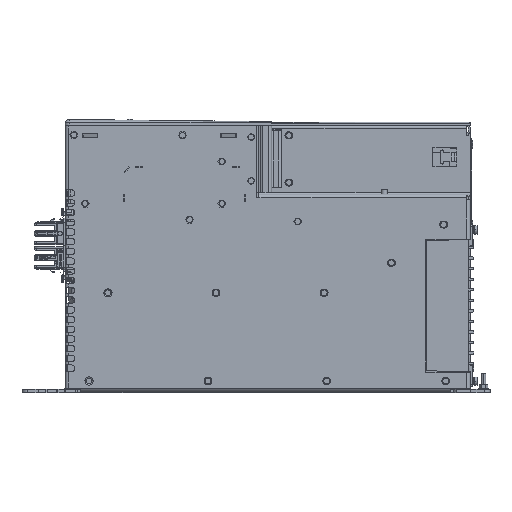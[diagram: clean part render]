
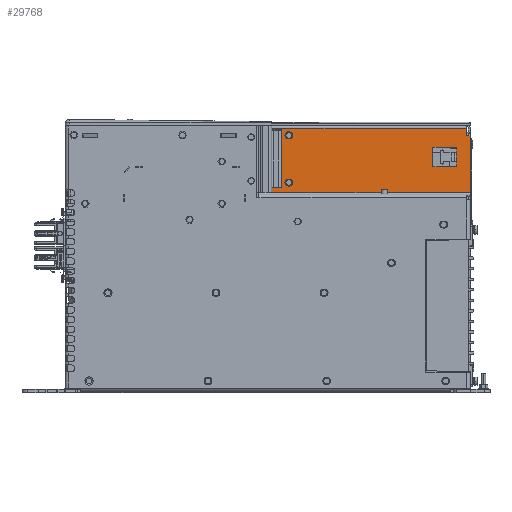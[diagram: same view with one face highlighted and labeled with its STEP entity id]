
A CAD part, left-side view. The second image highlights one B-rep face of the part: STEP entity #29768.
In plain terms, the highlighted planar face has unit normal (-1, 0, 0).
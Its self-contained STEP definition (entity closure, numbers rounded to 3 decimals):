
#9279=DIRECTION('',(0.,1.,0.));
#9280=VECTOR('',#9279,0.75);
#9281=CARTESIAN_POINT('',(-13.35,-20.045,197.536));
#9282=LINE('',#9281,#9280);
#9283=CARTESIAN_POINT('',(-13.35,-19.295,194.285));
#9284=DIRECTION('',(1.,0.,0.));
#9285=DIRECTION('',(0.,0.,-1.));
#9286=AXIS2_PLACEMENT_3D('',#9283,#9284,#9285);
#9288=DIRECTION('',(0.,-1.,0.));
#9289=VECTOR('',#9288,0.75);
#9290=CARTESIAN_POINT('',(-13.35,-19.295,191.034));
#9291=LINE('',#9290,#9289);
#9292=CARTESIAN_POINT('',(-13.35,-20.045,194.285));
#9293=DIRECTION('',(1.,0.,0.));
#9294=DIRECTION('',(0.,0.,1.));
#9295=AXIS2_PLACEMENT_3D('',#9292,#9293,#9294);
#9297=DIRECTION('',(0.,1.,0.));
#9298=VECTOR('',#9297,0.75);
#9299=CARTESIAN_POINT('',(-13.35,-20.045,241.136));
#9300=LINE('',#9299,#9298);
#9301=CARTESIAN_POINT('',(-13.35,-19.295,237.885));
#9302=DIRECTION('',(1.,0.,0.));
#9303=DIRECTION('',(0.,0.,-1.));
#9304=AXIS2_PLACEMENT_3D('',#9301,#9302,#9303);
#9306=DIRECTION('',(0.,-1.,0.));
#9307=VECTOR('',#9306,0.75);
#9308=CARTESIAN_POINT('',(-13.35,-19.295,234.634));
#9309=LINE('',#9308,#9307);
#9310=CARTESIAN_POINT('',(-13.35,-20.045,237.885));
#9311=DIRECTION('',(1.,0.,0.));
#9312=DIRECTION('',(0.,0.,1.));
#9313=AXIS2_PLACEMENT_3D('',#9310,#9311,#9312);
#9315=DIRECTION('',(0.,0.,-1.));
#9316=VECTOR('',#9315,2.5);
#9317=CARTESIAN_POINT('',(-13.35,-174.784,224.395));
#9318=LINE('',#9317,#9316);
#9319=DIRECTION('',(0.,0.,-1.));
#9320=VECTOR('',#9319,2.5);
#9321=CARTESIAN_POINT('',(-13.35,-174.784,226.895));
#9322=LINE('',#9321,#9320);
#9323=DIRECTION('',(0.,-1.,0.));
#9324=VECTOR('',#9323,21.87);
#9325=CARTESIAN_POINT('',(-13.35,-152.914,226.895));
#9326=LINE('',#9325,#9324);
#9327=DIRECTION('',(0.,0.,1.));
#9328=VECTOR('',#9327,18.);
#9329=CARTESIAN_POINT('',(-13.35,-152.914,208.895));
#9330=LINE('',#9329,#9328);
#9331=DIRECTION('',(0.,1.,0.));
#9332=VECTOR('',#9331,21.87);
#9333=CARTESIAN_POINT('',(-13.35,-174.784,208.895));
#9334=LINE('',#9333,#9332);
#9335=DIRECTION('',(0.,0.,-1.));
#9336=VECTOR('',#9335,2.5);
#9337=CARTESIAN_POINT('',(-13.35,-174.784,211.395));
#9338=LINE('',#9337,#9336);
#9339=DIRECTION('',(0.,0.,-1.));
#9340=VECTOR('',#9339,2.5);
#9341=CARTESIAN_POINT('',(-13.35,-174.784,213.895));
#9342=LINE('',#9341,#9340);
#9343=DIRECTION('',(0.,1.,0.));
#9344=VECTOR('',#9343,0.3);
#9345=CARTESIAN_POINT('',(-13.35,-174.784,213.895));
#9346=LINE('',#9345,#9344);
#9347=DIRECTION('',(0.,-1.,0.));
#9348=VECTOR('',#9347,0.3);
#9349=CARTESIAN_POINT('',(-13.35,-174.484,221.895));
#9350=LINE('',#9349,#9348);
#9351=CARTESIAN_POINT('',(-13.35,6.654,188.255));
#9352=DIRECTION('',(-1.,0.,0.));
#9353=DIRECTION('',(0.,0.,1.));
#9354=AXIS2_PLACEMENT_3D('',#9351,#9352,#9353);
#9356=DIRECTION('',(0.,1.,0.));
#9357=VECTOR('',#9356,10.5);
#9358=CARTESIAN_POINT('',(-13.35,-3.846,189.755));
#9359=LINE('',#9358,#9357);
#9360=DIRECTION('',(0.,-1.,0.));
#9361=VECTOR('',#9360,9.);
#9362=CARTESIAN_POINT('',(-13.35,-3.846,189.755));
#9363=LINE('',#9362,#9361);
#9364=DIRECTION('',(0.,0.,1.));
#9365=VECTOR('',#9364,53.14);
#9366=CARTESIAN_POINT('',(-13.35,-12.846,189.755));
#9367=LINE('',#9366,#9365);
#9368=DIRECTION('',(0.,1.,0.));
#9369=VECTOR('',#9368,9.);
#9370=CARTESIAN_POINT('',(-13.35,-12.846,242.895));
#9371=LINE('',#9370,#9369);
#9372=DIRECTION('',(0.,0.,1.));
#9373=VECTOR('',#9372,1.8);
#9374=CARTESIAN_POINT('',(-13.35,-3.846,242.895));
#9375=LINE('',#9374,#9373);
#9376=DIRECTION('',(0.,0.,-1.));
#9377=VECTOR('',#9376,7.021);
#9378=CARTESIAN_POINT('',(-13.35,-183.984,244.695));
#9379=LINE('',#9378,#9377);
#9380=DIRECTION('',(0.,1.,0.));
#9381=VECTOR('',#9380,3.4);
#9382=CARTESIAN_POINT('',(-13.35,-187.384,237.675));
#9383=LINE('',#9382,#9381);
#9384=DIRECTION('',(0.,-1.,0.));
#9385=VECTOR('',#9384,195.539);
#9386=CARTESIAN_POINT('',(-13.35,8.154,185.035));
#9387=LINE('',#9386,#9385);
#10017=DIRECTION('',(0.,-1.,0.));
#10018=VECTOR('',#10017,180.139);
#10019=CARTESIAN_POINT('',(-13.35,-3.846,244.695));
#10020=LINE('',#10019,#10018);
#10450=DIRECTION('',(0.,0.,1.));
#10451=VECTOR('',#10450,52.64);
#10452=CARTESIAN_POINT('',(-13.35,-187.384,185.035));
#10453=LINE('',#10452,#10451);
#10554=DIRECTION('',(0.,0.,-1.));
#10555=VECTOR('',#10554,3.22);
#10556=CARTESIAN_POINT('',(-13.35,8.154,188.255));
#10557=LINE('',#10556,#10555);
#19288=DIRECTION('',(0.,0.,-1.));
#19289=VECTOR('',#19288,8.);
#19290=CARTESIAN_POINT('',(-13.35,-174.484,221.895));
#19291=LINE('',#19290,#19289);
#19664=CARTESIAN_POINT('',(-13.35,-3.846,244.695));
#19666=VERTEX_POINT('',#19664);
#19847=CARTESIAN_POINT('',(-13.35,-3.846,242.895));
#19848=CARTESIAN_POINT('',(-13.35,-12.846,242.895));
#19849=VERTEX_POINT('',#19847);
#19850=VERTEX_POINT('',#19848);
#19851=CARTESIAN_POINT('',(-13.35,-12.846,189.755));
#19852=VERTEX_POINT('',#19851);
#19853=CARTESIAN_POINT('',(-13.35,-3.846,189.755));
#19854=VERTEX_POINT('',#19853);
#19873=CARTESIAN_POINT('',(-13.35,-187.384,185.035));
#19874=VERTEX_POINT('',#19873);
#19921=CARTESIAN_POINT('',(-13.35,8.154,185.035));
#19923=VERTEX_POINT('',#19921);
#21299=CARTESIAN_POINT('',(-13.35,-187.384,237.675));
#21300=CARTESIAN_POINT('',(-13.35,-183.984,237.675));
#21301=VERTEX_POINT('',#21299);
#21302=VERTEX_POINT('',#21300);
#21303=CARTESIAN_POINT('',(-13.35,-183.984,244.695));
#21304=VERTEX_POINT('',#21303);
#24591=CARTESIAN_POINT('',(-13.35,-19.295,
197.536));
#24592=CARTESIAN_POINT('',(-13.35,-20.045,197.536));
#24593=VERTEX_POINT('',#24591);
#24594=VERTEX_POINT('',#24592);
#24595=CARTESIAN_POINT('',(-13.35,-20.045,191.034));
#24596=VERTEX_POINT('',#24595);
#24601=CARTESIAN_POINT('',(-13.35,-19.295,191.034));
#24602=VERTEX_POINT('',#24601);
#24615=CARTESIAN_POINT('',(-13.35,-19.295,
241.136));
#24616=CARTESIAN_POINT('',(-13.35,-20.045,241.136));
#24617=VERTEX_POINT('',#24615);
#24618=VERTEX_POINT('',#24616);
#24619=CARTESIAN_POINT('',(-13.35,-20.045,234.634));
#24620=VERTEX_POINT('',#24619);
#24625=CARTESIAN_POINT('',(-13.35,-19.295,234.634));
#24626=VERTEX_POINT('',#24625);
#24735=CARTESIAN_POINT('',(-13.35,-152.914,208.895));
#24736=CARTESIAN_POINT('',(-13.35,-152.914,226.895));
#24737=VERTEX_POINT('',#24735);
#24738=VERTEX_POINT('',#24736);
#24739=CARTESIAN_POINT('',(-13.35,-174.784,226.895));
#24740=VERTEX_POINT('',#24739);
#24741=CARTESIAN_POINT('',(-13.35,-174.784,208.895));
#24742=VERTEX_POINT('',#24741);
#24767=CARTESIAN_POINT('',(-13.35,-174.784,224.395));
#24768=CARTESIAN_POINT('',(-13.35,-174.784,221.895));
#24769=VERTEX_POINT('',#24767);
#24770=VERTEX_POINT('',#24768);
#24771=CARTESIAN_POINT('',(-13.35,-174.484,221.895));
#24772=VERTEX_POINT('',#24771);
#24773=CARTESIAN_POINT('',(-13.35,-174.484,213.895));
#24774=CARTESIAN_POINT('',(-13.35,-174.784,213.895));
#24775=VERTEX_POINT('',#24773);
#24776=VERTEX_POINT('',#24774);
#24777=CARTESIAN_POINT('',(-13.35,-174.784,211.395));
#24778=VERTEX_POINT('',#24777);
#24811=CARTESIAN_POINT('',(-13.35,6.654,189.755));
#24812=VERTEX_POINT('',#24811);
#24813=CARTESIAN_POINT('',(-13.35,8.154,188.255));
#24814=VERTEX_POINT('',#24813);
#29695=CARTESIAN_POINT('',(-13.35,-141.336,181.835));
#29696=DIRECTION('',(1.,0.,0.));
#29697=DIRECTION('',(0.,1.,0.));
#29698=AXIS2_PLACEMENT_3D('',#29695,#29696,#29697);
#29699=PLANE('',#29698);
#29701=ORIENTED_EDGE('',*,*,#29700,.F.);
#29703=ORIENTED_EDGE('',*,*,#29702,.F.);
#29705=ORIENTED_EDGE('',*,*,#29704,.T.);
#29707=ORIENTED_EDGE('',*,*,#29706,.T.);
#29709=ORIENTED_EDGE('',*,*,#29708,.T.);
#29711=ORIENTED_EDGE('',*,*,#29710,.T.);
#29713=ORIENTED_EDGE('',*,*,#29712,.T.);
#29715=ORIENTED_EDGE('',*,*,#29714,.T.);
#29717=ORIENTED_EDGE('',*,*,#29716,.F.);
#29719=ORIENTED_EDGE('',*,*,#29718,.F.);
#29721=ORIENTED_EDGE('',*,*,#29720,.F.);
#29723=ORIENTED_EDGE('',*,*,#29722,.F.);
#29724=EDGE_LOOP('',(#29701,#29703,#29705,#29707,#29709,#29711,#29713,#29715,
#29717,#29719,#29721,#29723));
#29725=FACE_OUTER_BOUND('',#29724,.F.);
#29727=ORIENTED_EDGE('',*,*,#29726,.T.);
#29729=ORIENTED_EDGE('',*,*,#29728,.F.);
#29731=ORIENTED_EDGE('',*,*,#29730,.T.);
#29733=ORIENTED_EDGE('',*,*,#29732,.F.);
#29734=EDGE_LOOP('',(#29727,#29729,#29731,#29733));
#29735=FACE_BOUND('',#29734,.F.);
#29737=ORIENTED_EDGE('',*,*,#29736,.F.);
#29739=ORIENTED_EDGE('',*,*,#29738,.F.);
#29741=ORIENTED_EDGE('',*,*,#29740,.F.);
#29743=ORIENTED_EDGE('',*,*,#29742,.F.);
#29745=ORIENTED_EDGE('',*,*,#29744,.F.);
#29747=ORIENTED_EDGE('',*,*,#29746,.F.);
#29749=ORIENTED_EDGE('',*,*,#29748,.F.);
#29751=ORIENTED_EDGE('',*,*,#29750,.T.);
#29753=ORIENTED_EDGE('',*,*,#29752,.F.);
#29755=ORIENTED_EDGE('',*,*,#29754,.T.);
#29756=EDGE_LOOP('',(#29737,#29739,#29741,#29743,#29745,#29747,#29749,#29751,
#29753,#29755));
#29757=FACE_BOUND('',#29756,.F.);
#29759=ORIENTED_EDGE('',*,*,#29758,.T.);
#29761=ORIENTED_EDGE('',*,*,#29760,.F.);
#29763=ORIENTED_EDGE('',*,*,#29762,.T.);
#29765=ORIENTED_EDGE('',*,*,#29764,.F.);
#29766=EDGE_LOOP('',(#29759,#29761,#29763,#29765));
#29767=FACE_BOUND('',#29766,.F.);
#29768=ADVANCED_FACE('',(#29725,#29735,#29757,#29767),#29699,.F.);
#9287=CIRCLE('',#9286,3.251);
#9296=CIRCLE('',#9295,3.251);
#9305=CIRCLE('',#9304,3.251);
#9314=CIRCLE('',#9313,3.251);
#9355=CIRCLE('',#9354,1.5);
#29700=EDGE_CURVE('',#24812,#24814,#9355,.T.);
#29702=EDGE_CURVE('',#19854,#24812,#9359,.T.);
#29704=EDGE_CURVE('',#19854,#19852,#9363,.T.);
#29706=EDGE_CURVE('',#19852,#19850,#9367,.T.);
#29708=EDGE_CURVE('',#19850,#19849,#9371,.T.);
#29710=EDGE_CURVE('',#19849,#19666,#9375,.T.);
#29712=EDGE_CURVE('',#19666,#21304,#10020,.T.);
#29714=EDGE_CURVE('',#21304,#21302,#9379,.T.);
#29716=EDGE_CURVE('',#21301,#21302,#9383,.T.);
#29718=EDGE_CURVE('',#19874,#21301,#10453,.T.);
#29720=EDGE_CURVE('',#19923,#19874,#9387,.T.);
#29722=EDGE_CURVE('',#24814,#19923,#10557,.T.);
#29726=EDGE_CURVE('',#24618,#24617,#9300,.T.);
#29728=EDGE_CURVE('',#24626,#24617,#9305,.T.);
#29730=EDGE_CURVE('',#24626,#24620,#9309,.T.);
#29732=EDGE_CURVE('',#24618,#24620,#9314,.T.);
#29736=EDGE_CURVE('',#24769,#24770,#9318,.T.);
#29738=EDGE_CURVE('',#24740,#24769,#9322,.T.);
#29740=EDGE_CURVE('',#24738,#24740,#9326,.T.);
#29742=EDGE_CURVE('',#24737,#24738,#9330,.T.);
#29744=EDGE_CURVE('',#24742,#24737,#9334,.T.);
#29746=EDGE_CURVE('',#24778,#24742,#9338,.T.);
#29748=EDGE_CURVE('',#24776,#24778,#9342,.T.);
#29750=EDGE_CURVE('',#24776,#24775,#9346,.T.);
#29752=EDGE_CURVE('',#24772,#24775,#19291,.T.);
#29754=EDGE_CURVE('',#24772,#24770,#9350,.T.);
#29758=EDGE_CURVE('',#24594,#24593,#9282,.T.);
#29760=EDGE_CURVE('',#24602,#24593,#9287,.T.);
#29762=EDGE_CURVE('',#24602,#24596,#9291,.T.);
#29764=EDGE_CURVE('',#24594,#24596,#9296,.T.);
